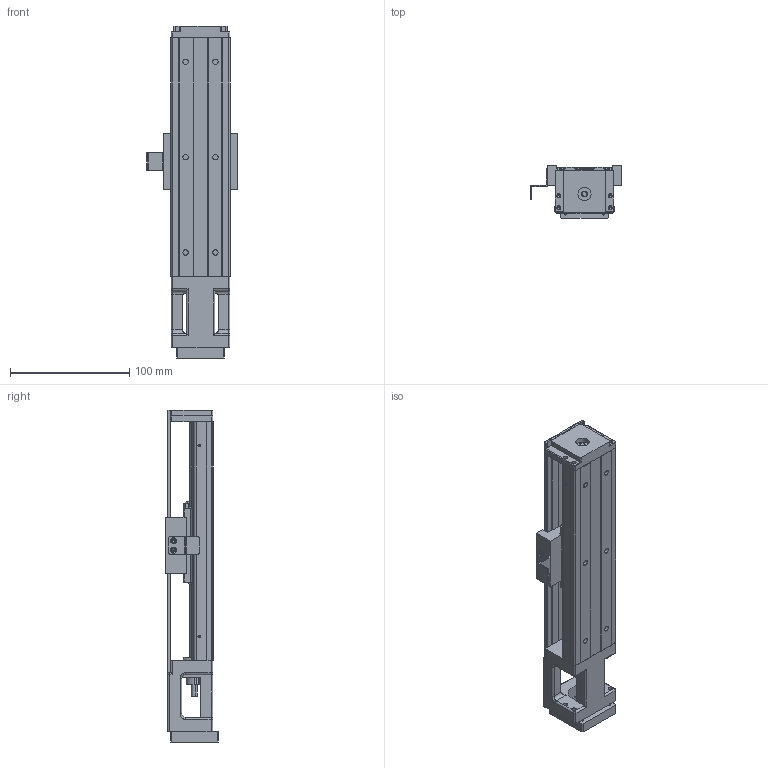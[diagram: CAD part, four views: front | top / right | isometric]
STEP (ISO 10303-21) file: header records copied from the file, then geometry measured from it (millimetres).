
FILE_DESCRIPTION (( 'STEP AP203' ), '1' );
FILE_NAME ('SK50-02-200.step', '2023-01-14T07:19:06', ( '' ), ( '' ), 'SwSTEP 2.0', 'SolidWorks 2018', '' );
FILE_SCHEMA (( 'CONFIG_CONTROL_DESIGN' ));
Length unit declared in the file: millimetre
Products named in the file (14): ______KK-50-CV-200.STEP; KK50______.STEP; 671____KK-50-S1-D1.STEP; KK50____.STEP; SK50-02-200; KK50______-1.STEP; KK50__________.STEP; KK50________.STEP; KK50______-2.STEP; KK50-200____.STEP; ____KK-50-F2.STEP; KK50-200____-0.STEP; ______KK-50-FS.STEP; KK50-A1____.STEP
Assembly tree (14 placements, depth 2):
  SK50-02-200
    KK50-200____.STEP
    KK50-200____-0.STEP
    KK50-A1____.STEP
    KK50______.STEP  x2
    KK50____.STEP
    KK50______-1.STEP
    KK50__________.STEP
    KK50________.STEP
    KK50______-2.STEP
    ____KK-50-F2.STEP
    ______KK-50-FS.STEP
    ______KK-50-CV-200.STEP
    671____KK-50-S1-D1.STEP
Bounding box: 76.3 x 44 x 278.5 mm (x, y, z)
Volume: 257890.2 mm3; surface area: 117545 mm2
Topology: 14 solids, 19 shells, 928 faces, 2446 edges, 1508 vertices
Faces by surface type: cylinder 442, plane 308, cone 110, bspline 68
Entity records: 31709 total; most frequent: CARTESIAN_POINT 7953, ORIENTED_EDGE 4680, DIRECTION 4600, EDGE_CURVE 2340, AXIS2_PLACEMENT_3D 1679, VERTEX_POINT 1500, VECTOR 1242, LINE 1242
